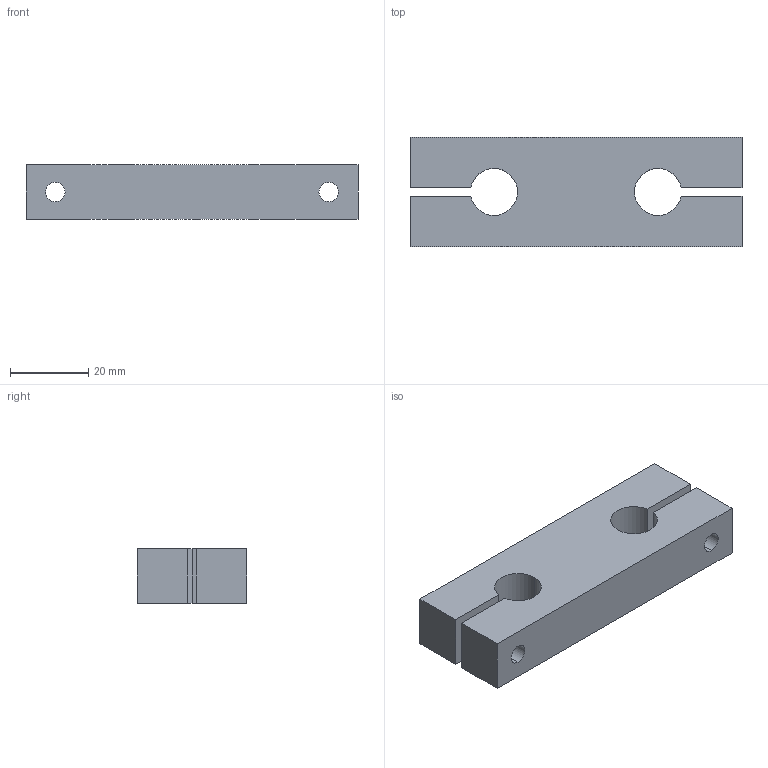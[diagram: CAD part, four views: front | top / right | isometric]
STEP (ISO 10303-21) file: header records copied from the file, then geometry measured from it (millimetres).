
FILE_DESCRIPTION (( 'STEP AP214' ), '1' );
FILE_NAME ('KTB-12.step', '2020-03-04T13:38:25', ( '' ), ( '' ), 'SwSTEP 2.0', 'SolidWorks 2019', '' );
FILE_SCHEMA (( 'AUTOMOTIVE_DESIGN' ));
Length unit declared in the file: millimetre
Products named in the file (1): KTB-12
Bounding box: 85 x 28 x 14 mm (x, y, z)
Volume: 26748.4 mm3; surface area: 10135.3 mm2
Topology: 1 solids, 1 shells, 41 faces, 101 edges, 65 vertices
Faces by surface type: cylinder 21, plane 16, cone 4
Entity records: 1307 total; most frequent: DIRECTION 227, CARTESIAN_POINT 206, ORIENTED_EDGE 198, EDGE_CURVE 99, AXIS2_PLACEMENT_3D 86, VERTEX_POINT 65, LINE 55, VECTOR 55
